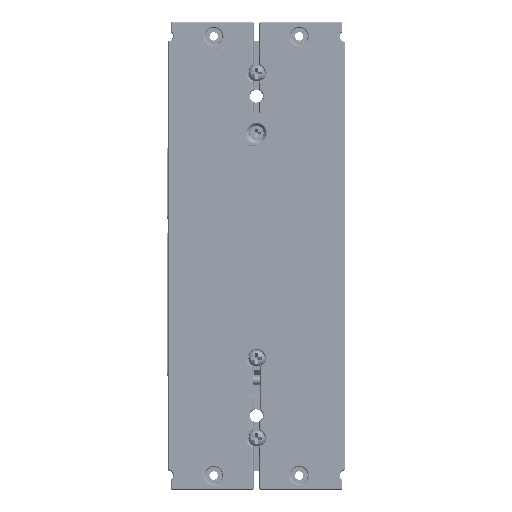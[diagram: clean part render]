
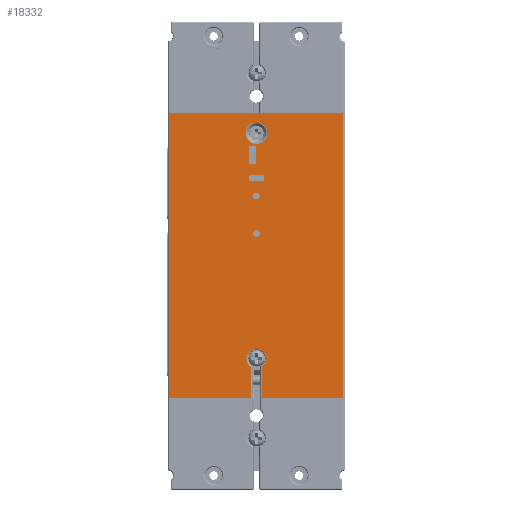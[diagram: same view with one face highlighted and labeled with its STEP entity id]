
A CAD part, top view. The second image highlights one B-rep face of the part: STEP entity #18332.
In plain terms, the highlighted planar face has unit normal (0, 0, 1).
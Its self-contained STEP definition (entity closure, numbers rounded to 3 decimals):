
#949=DIRECTION('',(0.,-1.,0.));
#950=VECTOR('',#949,100.);
#951=CARTESIAN_POINT('',(-45.5,50.,45.));
#952=LINE('',#951,#950);
#1087=DIRECTION('',(0.,1.,0.));
#1088=VECTOR('',#1087,10.998);
#1089=CARTESIAN_POINT('',(-16.8,-50.,45.));
#1090=LINE('',#1089,#1088);
#1091=DIRECTION('',(-1.,0.,0.));
#1092=VECTOR('',#1091,28.7);
#1093=CARTESIAN_POINT('',(-16.8,-50.,45.));
#1094=LINE('',#1093,#1092);
#1095=DIRECTION('',(1.,0.,0.));
#1096=VECTOR('',#1095,61.);
#1097=CARTESIAN_POINT('',(-45.5,50.,45.));
#1098=LINE('',#1097,#1096);
#1099=DIRECTION('',(-1.,0.,0.));
#1100=VECTOR('',#1099,28.7);
#1101=CARTESIAN_POINT('',(15.5,-50.,45.));
#1102=LINE('',#1101,#1100);
#1103=CARTESIAN_POINT('',(-15.,-36.,45.));
#1104=DIRECTION('',(0.,0.,1.));
#1105=DIRECTION('',(0.514,-0.858,0.));
#1106=AXIS2_PLACEMENT_3D('',#1103,#1104,#1105);
#1108=CARTESIAN_POINT('',(-15.,-36.,45.));
#1109=DIRECTION('',(0.,0.,1.));
#1110=DIRECTION('',(0.514,0.858,0.));
#1111=AXIS2_PLACEMENT_3D('',#1108,#1109,#1110);
#1113=DIRECTION('',(0.,-1.,0.));
#1114=VECTOR('',#1113,6.5);
#1115=CARTESIAN_POINT('',(-17.75,38.7,45.));
#1116=LINE('',#1115,#1114);
#1117=DIRECTION('',(1.,0.,0.));
#1118=VECTOR('',#1117,2.75);
#1119=CARTESIAN_POINT('',(-17.75,32.2,45.));
#1120=LINE('',#1119,#1118);
#1121=DIRECTION('',(0.,1.,0.));
#1122=VECTOR('',#1121,6.5);
#1123=CARTESIAN_POINT('',(-15.,32.2,45.));
#1124=LINE('',#1123,#1122);
#1125=DIRECTION('',(-1.,0.,0.));
#1126=VECTOR('',#1125,2.75);
#1127=CARTESIAN_POINT('',(-15.,38.7,45.));
#1128=LINE('',#1127,#1126);
#1129=CARTESIAN_POINT('',(-15.,7.8,45.));
#1130=DIRECTION('',(0.,0.,1.));
#1131=DIRECTION('',(1.,0.,0.));
#1132=AXIS2_PLACEMENT_3D('',#1129,#1130,#1131);
#1134=CARTESIAN_POINT('',(-15.,7.8,45.));
#1135=DIRECTION('',(0.,0.,1.));
#1136=DIRECTION('',(0.,1.,0.));
#1137=AXIS2_PLACEMENT_3D('',#1134,#1135,#1136);
#1139=CARTESIAN_POINT('',(-15.,7.8,45.));
#1140=DIRECTION('',(0.,0.,1.));
#1141=DIRECTION('',(-1.,0.,0.));
#1142=AXIS2_PLACEMENT_3D('',#1139,#1140,#1141);
#1144=CARTESIAN_POINT('',(-15.,7.8,45.));
#1145=DIRECTION('',(0.,0.,1.));
#1146=DIRECTION('',(0.,-1.,0.));
#1147=AXIS2_PLACEMENT_3D('',#1144,#1145,#1146);
#1149=CARTESIAN_POINT('',(-15.,21.,45.));
#1150=DIRECTION('',(0.,0.,1.));
#1151=DIRECTION('',(1.,0.,0.));
#1152=AXIS2_PLACEMENT_3D('',#1149,#1150,#1151);
#1154=CARTESIAN_POINT('',(-15.,21.,45.));
#1155=DIRECTION('',(0.,0.,1.));
#1156=DIRECTION('',(0.,1.,0.));
#1157=AXIS2_PLACEMENT_3D('',#1154,#1155,#1156);
#1159=CARTESIAN_POINT('',(-15.,21.,45.));
#1160=DIRECTION('',(0.,0.,1.));
#1161=DIRECTION('',(-1.,0.,0.));
#1162=AXIS2_PLACEMENT_3D('',#1159,#1160,#1161);
#1164=CARTESIAN_POINT('',(-15.,21.,45.));
#1165=DIRECTION('',(0.,0.,1.));
#1166=DIRECTION('',(0.,-1.,0.));
#1167=AXIS2_PLACEMENT_3D('',#1164,#1165,#1166);
#1169=CARTESIAN_POINT('',(-15.,43.,45.));
#1170=DIRECTION('',(0.,0.,1.));
#1171=DIRECTION('',(-0.996,-0.086,0.));
#1172=AXIS2_PLACEMENT_3D('',#1169,#1170,#1171);
#1174=CARTESIAN_POINT('',(-15.,43.,45.));
#1175=DIRECTION('',(0.,0.,1.));
#1176=DIRECTION('',(1.,0.,0.));
#1177=AXIS2_PLACEMENT_3D('',#1174,#1175,#1176);
#1179=CARTESIAN_POINT('',(-15.,43.,45.));
#1180=DIRECTION('',(0.,0.,1.));
#1181=DIRECTION('',(0.996,0.086,0.));
#1182=AXIS2_PLACEMENT_3D('',#1179,#1180,#1181);
#1184=CARTESIAN_POINT('',(-15.,43.,45.));
#1185=DIRECTION('',(0.,0.,1.));
#1186=DIRECTION('',(-1.,0.,0.));
#1187=AXIS2_PLACEMENT_3D('',#1184,#1185,#1186);
#1189=DIRECTION('',(0.,1.,0.));
#1190=VECTOR('',#1189,2.2);
#1191=CARTESIAN_POINT('',(-12.5,26.3,45.));
#1192=LINE('',#1191,#1190);
#1193=DIRECTION('',(-1.,0.,0.));
#1194=VECTOR('',#1193,5.);
#1195=CARTESIAN_POINT('',(-12.5,28.5,45.));
#1196=LINE('',#1195,#1194);
#1197=DIRECTION('',(0.,-1.,0.));
#1198=VECTOR('',#1197,2.2);
#1199=CARTESIAN_POINT('',(-17.5,28.5,45.));
#1200=LINE('',#1199,#1198);
#1201=DIRECTION('',(1.,0.,0.));
#1202=VECTOR('',#1201,5.);
#1203=CARTESIAN_POINT('',(-17.5,26.3,45.));
#1204=LINE('',#1203,#1202);
#1205=DIRECTION('',(0.,1.,0.));
#1206=VECTOR('',#1205,100.);
#1207=CARTESIAN_POINT('',(15.5,-50.,45.));
#1208=LINE('',#1207,#1206);
#3498=DIRECTION('',(0.,-1.,0.));
#3499=VECTOR('',#3498,10.998);
#3500=CARTESIAN_POINT('',(-13.2,-39.002,45.));
#3501=LINE('',#3500,#3499);
#13704=CARTESIAN_POINT('',(-45.5,50.,45.));
#13706=VERTEX_POINT('',#13704);
#13724=CARTESIAN_POINT('',(15.5,50.,45.));
#13725=VERTEX_POINT('',#13724);
#13727=CARTESIAN_POINT('',(-45.5,-50.,45.));
#13729=VERTEX_POINT('',#13727);
#13734=CARTESIAN_POINT('',(-16.8,-50.,45.));
#13735=VERTEX_POINT('',#13734);
#13772=CARTESIAN_POINT('',(-16.8,-39.002,45.));
#13773=VERTEX_POINT('',#13772);
#13774=CARTESIAN_POINT('',(15.5,-50.,45.));
#13775=VERTEX_POINT('',#13774);
#13776=CARTESIAN_POINT('',(-13.2,-50.,45.));
#13777=VERTEX_POINT('',#13776);
#13778=CARTESIAN_POINT('',(-13.2,-39.002,45.));
#13779=VERTEX_POINT('',#13778);
#13780=CARTESIAN_POINT('',(-13.2,-32.998,45.));
#13781=VERTEX_POINT('',#13780);
#13782=CARTESIAN_POINT('',(-17.75,38.7,45.));
#13783=CARTESIAN_POINT('',(-17.75,32.2,45.));
#13784=VERTEX_POINT('',#13782);
#13785=VERTEX_POINT('',#13783);
#13786=CARTESIAN_POINT('',(-15.,32.2,45.));
#13787=VERTEX_POINT('',#13786);
#13788=CARTESIAN_POINT('',(-15.,38.7,45.));
#13789=VERTEX_POINT('',#13788);
#13790=CARTESIAN_POINT('',(-13.8,7.8,45.));
#13791=CARTESIAN_POINT('',(-15.,9.,45.));
#13792=VERTEX_POINT('',#13790);
#13793=VERTEX_POINT('',#13791);
#13794=CARTESIAN_POINT('',(-16.2,7.8,45.));
#13795=VERTEX_POINT('',#13794);
#13796=CARTESIAN_POINT('',(-15.,6.6,45.));
#13797=VERTEX_POINT('',#13796);
#13798=CARTESIAN_POINT('',(-13.8,21.,45.));
#13799=CARTESIAN_POINT('',(-15.,22.2,45.));
#13800=VERTEX_POINT('',#13798);
#13801=VERTEX_POINT('',#13799);
#13802=CARTESIAN_POINT('',(-16.2,21.,45.));
#13803=VERTEX_POINT('',#13802);
#13804=CARTESIAN_POINT('',(-15.,19.8,45.));
#13805=VERTEX_POINT('',#13804);
#13806=CARTESIAN_POINT('',(-18.736,42.677,45.));
#13807=CARTESIAN_POINT('',(-11.25,43.,45.));
#13808=VERTEX_POINT('',#13806);
#13809=VERTEX_POINT('',#13807);
#13810=CARTESIAN_POINT('',(-11.264,43.323,45.));
#13811=VERTEX_POINT('',#13810);
#13812=CARTESIAN_POINT('',(-18.75,43.,45.));
#13813=VERTEX_POINT('',#13812);
#13814=CARTESIAN_POINT('',(-12.5,26.3,45.));
#13815=CARTESIAN_POINT('',(-12.5,28.5,45.));
#13816=VERTEX_POINT('',#13814);
#13817=VERTEX_POINT('',#13815);
#13818=CARTESIAN_POINT('',(-17.5,28.5,45.));
#13819=VERTEX_POINT('',#13818);
#13820=CARTESIAN_POINT('',(-17.5,26.3,45.));
#13821=VERTEX_POINT('',#13820);
#18261=CARTESIAN_POINT('',(0.,0.,45.));
#18262=DIRECTION('',(0.,0.,1.));
#18263=DIRECTION('',(0.,-1.,0.));
#18264=AXIS2_PLACEMENT_3D('',#18261,#18262,#18263);
#18265=PLANE('',#18264);
#18266=ORIENTED_EDGE('',*,*,#18098,.T.);
#18267=ORIENTED_EDGE('',*,*,#18080,.F.);
#18268=ORIENTED_EDGE('',*,*,#18065,.T.);
#18270=ORIENTED_EDGE('',*,*,#18269,.F.);
#18272=ORIENTED_EDGE('',*,*,#18271,.T.);
#18274=ORIENTED_EDGE('',*,*,#18273,.F.);
#18276=ORIENTED_EDGE('',*,*,#18275,.T.);
#18278=ORIENTED_EDGE('',*,*,#18277,.T.);
#18279=ORIENTED_EDGE('',*,*,#18254,.F.);
#18280=EDGE_LOOP('',(#18266,#18267,#18268,#18270,#18272,#18274,#18276,#18278,
#18279));
#18281=FACE_OUTER_BOUND('',#18280,.F.);
#18283=ORIENTED_EDGE('',*,*,#18282,.T.);
#18285=ORIENTED_EDGE('',*,*,#18284,.T.);
#18287=ORIENTED_EDGE('',*,*,#18286,.T.);
#18289=ORIENTED_EDGE('',*,*,#18288,.T.);
#18290=EDGE_LOOP('',(#18283,#18285,#18287,#18289));
#18291=FACE_BOUND('',#18290,.F.);
#18293=ORIENTED_EDGE('',*,*,#18292,.T.);
#18295=ORIENTED_EDGE('',*,*,#18294,.T.);
#18297=ORIENTED_EDGE('',*,*,#18296,.T.);
#18299=ORIENTED_EDGE('',*,*,#18298,.T.);
#18300=EDGE_LOOP('',(#18293,#18295,#18297,#18299));
#18301=FACE_BOUND('',#18300,.F.);
#18303=ORIENTED_EDGE('',*,*,#18302,.T.);
#18305=ORIENTED_EDGE('',*,*,#18304,.T.);
#18307=ORIENTED_EDGE('',*,*,#18306,.T.);
#18309=ORIENTED_EDGE('',*,*,#18308,.T.);
#18310=EDGE_LOOP('',(#18303,#18305,#18307,#18309));
#18311=FACE_BOUND('',#18310,.F.);
#18313=ORIENTED_EDGE('',*,*,#18312,.T.);
#18315=ORIENTED_EDGE('',*,*,#18314,.T.);
#18317=ORIENTED_EDGE('',*,*,#18316,.T.);
#18319=ORIENTED_EDGE('',*,*,#18318,.T.);
#18320=EDGE_LOOP('',(#18313,#18315,#18317,#18319));
#18321=FACE_BOUND('',#18320,.F.);
#18323=ORIENTED_EDGE('',*,*,#18322,.T.);
#18325=ORIENTED_EDGE('',*,*,#18324,.T.);
#18327=ORIENTED_EDGE('',*,*,#18326,.T.);
#18329=ORIENTED_EDGE('',*,*,#18328,.T.);
#18330=EDGE_LOOP('',(#18323,#18325,#18327,#18329));
#18331=FACE_BOUND('',#18330,.F.);
#18332=ADVANCED_FACE('',(#18281,#18291,#18301,#18311,#18321,#18331),#18265,.T.);
#1107=CIRCLE('',#1106,3.5);
#1112=CIRCLE('',#1111,3.5);
#1133=CIRCLE('',#1132,1.2);
#1138=CIRCLE('',#1137,1.2);
#1143=CIRCLE('',#1142,1.2);
#1148=CIRCLE('',#1147,1.2);
#1153=CIRCLE('',#1152,1.2);
#1158=CIRCLE('',#1157,1.2);
#1163=CIRCLE('',#1162,1.2);
#1168=CIRCLE('',#1167,1.2);
#1173=CIRCLE('',#1172,3.75);
#1178=CIRCLE('',#1177,3.75);
#1183=CIRCLE('',#1182,3.75);
#1188=CIRCLE('',#1187,3.75);
#18065=EDGE_CURVE('',#13706,#13725,#1098,.T.);
#18080=EDGE_CURVE('',#13706,#13729,#952,.T.);
#18098=EDGE_CURVE('',#13735,#13729,#1094,.T.);
#18254=EDGE_CURVE('',#13735,#13773,#1090,.T.);
#18269=EDGE_CURVE('',#13775,#13725,#1208,.T.);
#18271=EDGE_CURVE('',#13775,#13777,#1102,.T.);
#18273=EDGE_CURVE('',#13779,#13777,#3501,.T.);
#18275=EDGE_CURVE('',#13779,#13781,#1107,.T.);
#18277=EDGE_CURVE('',#13781,#13773,#1112,.T.);
#18282=EDGE_CURVE('',#13784,#13785,#1116,.T.);
#18284=EDGE_CURVE('',#13785,#13787,#1120,.T.);
#18286=EDGE_CURVE('',#13787,#13789,#1124,.T.);
#18288=EDGE_CURVE('',#13789,#13784,#1128,.T.);
#18292=EDGE_CURVE('',#13792,#13793,#1133,.T.);
#18294=EDGE_CURVE('',#13793,#13795,#1138,.T.);
#18296=EDGE_CURVE('',#13795,#13797,#1143,.T.);
#18298=EDGE_CURVE('',#13797,#13792,#1148,.T.);
#18302=EDGE_CURVE('',#13800,#13801,#1153,.T.);
#18304=EDGE_CURVE('',#13801,#13803,#1158,.T.);
#18306=EDGE_CURVE('',#13803,#13805,#1163,.T.);
#18308=EDGE_CURVE('',#13805,#13800,#1168,.T.);
#18312=EDGE_CURVE('',#13808,#13809,#1173,.T.);
#18314=EDGE_CURVE('',#13809,#13811,#1178,.T.);
#18316=EDGE_CURVE('',#13811,#13813,#1183,.T.);
#18318=EDGE_CURVE('',#13813,#13808,#1188,.T.);
#18322=EDGE_CURVE('',#13816,#13817,#1192,.T.);
#18324=EDGE_CURVE('',#13817,#13819,#1196,.T.);
#18326=EDGE_CURVE('',#13819,#13821,#1200,.T.);
#18328=EDGE_CURVE('',#13821,#13816,#1204,.T.);
